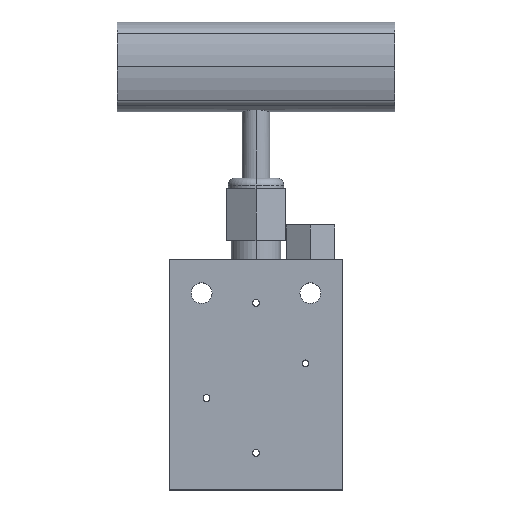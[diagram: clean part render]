
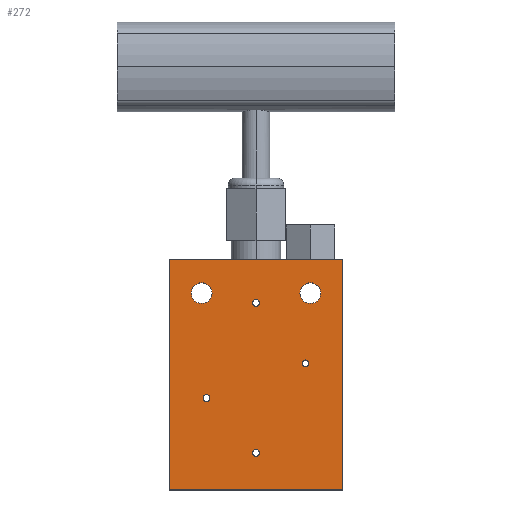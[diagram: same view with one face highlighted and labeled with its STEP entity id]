
A CAD part, top view. The second image highlights one B-rep face of the part: STEP entity #272.
In plain terms, the highlighted planar face has unit normal (0, 0, 1).
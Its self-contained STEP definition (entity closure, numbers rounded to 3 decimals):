
#3 = AXIS2_PLACEMENT_3D ( 'NONE', #3312, #2167, #2728 ) ;
#43 = CIRCLE ( 'NONE', #2528, 3. ) ;
#65 = DIRECTION ( 'NONE',  ( -1., 0., 0. ) ) ;
#84 = VERTEX_POINT ( 'NONE', #2885 ) ;
#92 = CIRCLE ( 'NONE', #2121, 1. ) ;
#102 = AXIS2_PLACEMENT_3D ( 'NONE', #1484, #656, #2525 ) ;
#163 = EDGE_CURVE ( 'NONE', #1960, #1121, #3434, .T. ) ;
#203 = VERTEX_POINT ( 'NONE', #2073 ) ;
#220 = DIRECTION ( 'NONE',  ( 0., 0., 1. ) ) ;
#272 = ADVANCED_FACE ( 'NONE', ( #1040, #1106, #1316, #2414, #1020, #1632, #2211 ), #3522, .T. ) ;
#273 = CARTESIAN_POINT ( 'NONE',  ( -15.7, 21.3, 10. ) ) ;
#289 = EDGE_LOOP ( 'NONE', ( #1579, #3518, #1489, #2282 ) ) ;
#290 = CIRCLE ( 'NONE', #102, 1. ) ;
#294 = AXIS2_PLACEMENT_3D ( 'NONE', #2760, #220, #1329 ) ;
#297 = CARTESIAN_POINT ( 'NONE',  ( -1., -24.8, 10. ) ) ;
#397 = CARTESIAN_POINT ( 'NONE',  ( 15.7, 21.3, 10. ) ) ;
#407 = EDGE_CURVE ( 'NONE', #1121, #84, #1294, .T. ) ;
#422 = CARTESIAN_POINT ( 'NONE',  ( -25., 31., 10. ) ) ;
#433 = EDGE_LOOP ( 'NONE', ( #2804, #3387 ) ) ;
#456 = CARTESIAN_POINT ( 'NONE',  ( 18.7, 21.3, 10. ) ) ;
#489 = LINE ( 'NONE', #3224, #3307 ) ;
#544 = EDGE_CURVE ( 'NONE', #1358, #2385, #92, .T. ) ;
#554 = VERTEX_POINT ( 'NONE', #297 ) ;
#588 = ORIENTED_EDGE ( 'NONE', *, *, #2558, .F. ) ;
#595 = EDGE_CURVE ( 'NONE', #554, #2208, #617, .T. ) ;
#617 = CIRCLE ( 'NONE', #2188, 1. ) ;
#637 = CARTESIAN_POINT ( 'NONE',  ( 13.3, 1., 10. ) ) ;
#656 = DIRECTION ( 'NONE',  ( 0., 0., 1. ) ) ;
#727 = VECTOR ( 'NONE', #1545, 1000. ) ;
#767 = DIRECTION ( 'NONE',  ( 0., 0., 1. ) ) ;
#835 = DIRECTION ( 'NONE',  ( 1., 0., 0. ) ) ;
#856 = CIRCLE ( 'NONE', #2580, 3. ) ;
#885 = CARTESIAN_POINT ( 'NONE',  ( 0., -24.8, 10. ) ) ;
#893 = ORIENTED_EDGE ( 'NONE', *, *, #3436, .F. ) ;
#912 = EDGE_LOOP ( 'NONE', ( #588, #1697 ) ) ;
#950 = VERTEX_POINT ( 'NONE', #2582 ) ;
#969 = VERTEX_POINT ( 'NONE', #2874 ) ;
#990 = EDGE_CURVE ( 'NONE', #1572, #3133, #43, .T. ) ;
#1000 = EDGE_CURVE ( 'NONE', #84, #203, #3426, .T. ) ;
#1015 = CARTESIAN_POINT ( 'NONE',  ( 0., -24.8, 10. ) ) ;
#1020 = FACE_BOUND ( 'NONE', #1244, .T. ) ;
#1040 = FACE_BOUND ( 'NONE', #433, .T. ) ;
#1098 = DIRECTION ( 'NONE',  ( 0., 0., 1. ) ) ;
#1106 = FACE_BOUND ( 'NONE', #3117, .T. ) ;
#1121 = VERTEX_POINT ( 'NONE', #3531 ) ;
#1202 = VERTEX_POINT ( 'NONE', #2437 ) ;
#1204 = AXIS2_PLACEMENT_3D ( 'NONE', #1281, #3209, #2863 ) ;
#1209 = AXIS2_PLACEMENT_3D ( 'NONE', #885, #1981, #835 ) ;
#1244 = EDGE_LOOP ( 'NONE', ( #1251, #3563 ) ) ;
#1245 = CARTESIAN_POINT ( 'NONE',  ( 15.3, 1., 10. ) ) ;
#1251 = ORIENTED_EDGE ( 'NONE', *, *, #1934, .F. ) ;
#1281 = CARTESIAN_POINT ( 'NONE',  ( -15.7, 21.3, 10. ) ) ;
#1294 = LINE ( 'NONE', #1868, #2006 ) ;
#1316 = FACE_BOUND ( 'NONE', #1647, .T. ) ;
#1329 = DIRECTION ( 'NONE',  ( 1., 0., 0. ) ) ;
#1358 = VERTEX_POINT ( 'NONE', #637 ) ;
#1371 = DIRECTION ( 'NONE',  ( 1., 0., 0. ) ) ;
#1375 = VERTEX_POINT ( 'NONE', #2019 ) ;
#1387 = ORIENTED_EDGE ( 'NONE', *, *, #2610, .F. ) ;
#1428 = VECTOR ( 'NONE', #3166, 1000. ) ;
#1442 = CIRCLE ( 'NONE', #1209, 1. ) ;
#1466 = DIRECTION ( 'NONE',  ( 0., 0., 1. ) ) ;
#1484 = CARTESIAN_POINT ( 'NONE',  ( -14.3, -9., 10. ) ) ;
#1489 = ORIENTED_EDGE ( 'NONE', *, *, #1000, .T. ) ;
#1521 = CARTESIAN_POINT ( 'NONE',  ( -25., 31., 10. ) ) ;
#1524 = CARTESIAN_POINT ( 'NONE',  ( -14.3, -9., 10. ) ) ;
#1537 = DIRECTION ( 'NONE',  ( 1., 0., 0. ) ) ;
#1545 = DIRECTION ( 'NONE',  ( 0., -1., 0. ) ) ;
#1548 = CIRCLE ( 'NONE', #2250, 1. ) ;
#1558 = CIRCLE ( 'NONE', #3, 1. ) ;
#1572 = VERTEX_POINT ( 'NONE', #1895 ) ;
#1579 = ORIENTED_EDGE ( 'NONE', *, *, #163, .T. ) ;
#1617 = EDGE_CURVE ( 'NONE', #950, #1375, #1548, .T. ) ;
#1632 = FACE_BOUND ( 'NONE', #912, .T. ) ;
#1647 = EDGE_LOOP ( 'NONE', ( #2331, #2055 ) ) ;
#1686 = CIRCLE ( 'NONE', #3406, 3. ) ;
#1692 = CARTESIAN_POINT ( 'NONE',  ( 1., -24.8, 10. ) ) ;
#1695 = DIRECTION ( 'NONE',  ( 1., 0., 0. ) ) ;
#1697 = ORIENTED_EDGE ( 'NONE', *, *, #990, .F. ) ;
#1715 = EDGE_CURVE ( 'NONE', #2416, #1202, #856, .T. ) ;
#1868 = CARTESIAN_POINT ( 'NONE',  ( -25., -35.5, 10. ) ) ;
#1895 = CARTESIAN_POINT ( 'NONE',  ( 12.7, 21.3, 10. ) ) ;
#1934 = EDGE_CURVE ( 'NONE', #1202, #2416, #2775, .T. ) ;
#1960 = VERTEX_POINT ( 'NONE', #1521 ) ;
#1967 = CIRCLE ( 'NONE', #2878, 1. ) ;
#1981 = DIRECTION ( 'NONE',  ( 0., 0., 1. ) ) ;
#2003 = CARTESIAN_POINT ( 'NONE',  ( 15.7, 21.3, 10. ) ) ;
#2006 = VECTOR ( 'NONE', #2389, 1000. ) ;
#2019 = CARTESIAN_POINT ( 'NONE',  ( -15.3, -9., 10. ) ) ;
#2051 = DIRECTION ( 'NONE',  ( 1., 0., 0. ) ) ;
#2055 = ORIENTED_EDGE ( 'NONE', *, *, #544, .F. ) ;
#2073 = CARTESIAN_POINT ( 'NONE',  ( 25., 31., 10. ) ) ;
#2098 = CARTESIAN_POINT ( 'NONE',  ( -18.7, 21.3, 10. ) ) ;
#2121 = AXIS2_PLACEMENT_3D ( 'NONE', #3323, #1098, #1695 ) ;
#2167 = DIRECTION ( 'NONE',  ( 0., 0., 1. ) ) ;
#2188 = AXIS2_PLACEMENT_3D ( 'NONE', #1015, #3204, #1537 ) ;
#2208 = VERTEX_POINT ( 'NONE', #1692 ) ;
#2211 = FACE_OUTER_BOUND ( 'NONE', #289, .T. ) ;
#2250 = AXIS2_PLACEMENT_3D ( 'NONE', #1524, #2597, #2630 ) ;
#2282 = ORIENTED_EDGE ( 'NONE', *, *, #3333, .T. ) ;
#2319 = DIRECTION ( 'NONE',  ( 0., 0., 1. ) ) ;
#2331 = ORIENTED_EDGE ( 'NONE', *, *, #2812, .F. ) ;
#2377 = CARTESIAN_POINT ( 'NONE',  ( 0., 18.5, 10. ) ) ;
#2385 = VERTEX_POINT ( 'NONE', #1245 ) ;
#2389 = DIRECTION ( 'NONE',  ( 1., 0., 0. ) ) ;
#2392 = DIRECTION ( 'NONE',  ( 0., 0., 1. ) ) ;
#2414 = FACE_BOUND ( 'NONE', #2765, .T. ) ;
#2416 = VERTEX_POINT ( 'NONE', #2098 ) ;
#2437 = CARTESIAN_POINT ( 'NONE',  ( -12.7, 21.3, 10. ) ) ;
#2509 = CARTESIAN_POINT ( 'NONE',  ( -1., 18.5, 10. ) ) ;
#2525 = DIRECTION ( 'NONE',  ( 1., 0., 0. ) ) ;
#2528 = AXIS2_PLACEMENT_3D ( 'NONE', #397, #2319, #2602 ) ;
#2558 = EDGE_CURVE ( 'NONE', #3133, #1572, #1686, .T. ) ;
#2580 = AXIS2_PLACEMENT_3D ( 'NONE', #273, #3242, #3550 ) ;
#2582 = CARTESIAN_POINT ( 'NONE',  ( -13.3, -9., 10. ) ) ;
#2592 = CIRCLE ( 'NONE', #294, 1. ) ;
#2597 = DIRECTION ( 'NONE',  ( 0., 0., 1. ) ) ;
#2602 = DIRECTION ( 'NONE',  ( -1., 0., 0. ) ) ;
#2610 = EDGE_CURVE ( 'NONE', #1375, #950, #290, .T. ) ;
#2630 = DIRECTION ( 'NONE',  ( 1., 0., 0. ) ) ;
#2639 = ORIENTED_EDGE ( 'NONE', *, *, #595, .F. ) ;
#2657 = EDGE_CURVE ( 'NONE', #3092, #969, #1967, .T. ) ;
#2722 = DIRECTION ( 'NONE',  ( -1., 0., 0. ) ) ;
#2728 = DIRECTION ( 'NONE',  ( 1., 0., 0. ) ) ;
#2760 = CARTESIAN_POINT ( 'NONE',  ( 0., 18.5, 10. ) ) ;
#2765 = EDGE_LOOP ( 'NONE', ( #3524, #1387 ) ) ;
#2775 = CIRCLE ( 'NONE', #1204, 3. ) ;
#2804 = ORIENTED_EDGE ( 'NONE', *, *, #3335, .F. ) ;
#2812 = EDGE_CURVE ( 'NONE', #2385, #1358, #1558, .T. ) ;
#2863 = DIRECTION ( 'NONE',  ( 1., 0., 0. ) ) ;
#2874 = CARTESIAN_POINT ( 'NONE',  ( 1., 18.5, 10. ) ) ;
#2878 = AXIS2_PLACEMENT_3D ( 'NONE', #2377, #2392, #2051 ) ;
#2885 = CARTESIAN_POINT ( 'NONE',  ( 25., -35.5, 10. ) ) ;
#2894 = CARTESIAN_POINT ( 'NONE',  ( 25., 31., 10. ) ) ;
#3092 = VERTEX_POINT ( 'NONE', #2509 ) ;
#3097 = AXIS2_PLACEMENT_3D ( 'NONE', #3315, #767, #1371 ) ;
#3117 = EDGE_LOOP ( 'NONE', ( #893, #2639 ) ) ;
#3133 = VERTEX_POINT ( 'NONE', #456 ) ;
#3166 = DIRECTION ( 'NONE',  ( 0., 1., 0. ) ) ;
#3204 = DIRECTION ( 'NONE',  ( 0., 0., 1. ) ) ;
#3209 = DIRECTION ( 'NONE',  ( 0., 0., 1. ) ) ;
#3224 = CARTESIAN_POINT ( 'NONE',  ( -25., 31., 10. ) ) ;
#3242 = DIRECTION ( 'NONE',  ( 0., 0., 1. ) ) ;
#3307 = VECTOR ( 'NONE', #2722, 1000. ) ;
#3312 = CARTESIAN_POINT ( 'NONE',  ( 14.3, 1., 10. ) ) ;
#3315 = CARTESIAN_POINT ( 'NONE',  ( 0., 0., 10. ) ) ;
#3323 = CARTESIAN_POINT ( 'NONE',  ( 14.3, 1., 10. ) ) ;
#3333 = EDGE_CURVE ( 'NONE', #203, #1960, #489, .T. ) ;
#3335 = EDGE_CURVE ( 'NONE', #969, #3092, #2592, .T. ) ;
#3387 = ORIENTED_EDGE ( 'NONE', *, *, #2657, .F. ) ;
#3406 = AXIS2_PLACEMENT_3D ( 'NONE', #2003, #1466, #65 ) ;
#3426 = LINE ( 'NONE', #2894, #1428 ) ;
#3434 = LINE ( 'NONE', #422, #727 ) ;
#3436 = EDGE_CURVE ( 'NONE', #2208, #554, #1442, .T. ) ;
#3518 = ORIENTED_EDGE ( 'NONE', *, *, #407, .T. ) ;
#3522 = PLANE ( 'NONE',  #3097 ) ;
#3524 = ORIENTED_EDGE ( 'NONE', *, *, #1617, .F. ) ;
#3531 = CARTESIAN_POINT ( 'NONE',  ( -25., -35.5, 10. ) ) ;
#3550 = DIRECTION ( 'NONE',  ( 1., 0., 0. ) ) ;
#3563 = ORIENTED_EDGE ( 'NONE', *, *, #1715, .F. ) ;
